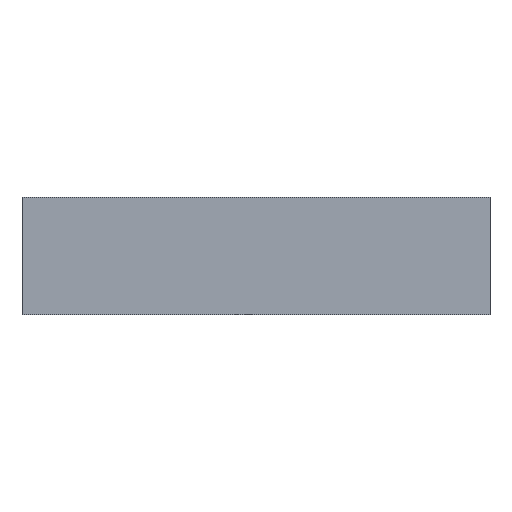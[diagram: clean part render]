
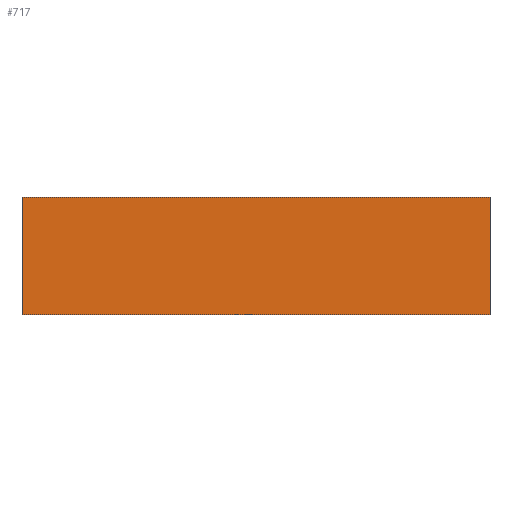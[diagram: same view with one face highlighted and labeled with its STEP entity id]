
A CAD part, left-side view. The second image highlights one B-rep face of the part: STEP entity #717.
In plain terms, the highlighted planar face has unit normal (-1, 0, 0).
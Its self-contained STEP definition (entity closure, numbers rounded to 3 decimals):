
#2 = VECTOR ( 'NONE', #512, 1000. ) ;
#18 = LINE ( 'NONE', #667, #2 ) ;
#27 = EDGE_CURVE ( 'NONE', #437, #775, #100, .T. ) ;
#71 = ORIENTED_EDGE ( 'NONE', *, *, #649, .F. ) ;
#76 = VERTEX_POINT ( 'NONE', #386 ) ;
#100 = LINE ( 'NONE', #209, #284 ) ;
#147 = VECTOR ( 'NONE', #306, 1000. ) ;
#149 = EDGE_LOOP ( 'NONE', ( #413, #71, #356, #503 ) ) ;
#196 = DIRECTION ( 'NONE',  ( 0., -1., 0. ) ) ;
#209 = CARTESIAN_POINT ( 'NONE',  ( -13., -180., 0. ) ) ;
#284 = VECTOR ( 'NONE', #196, 1000. ) ;
#306 = DIRECTION ( 'NONE',  ( 0., -1., 0. ) ) ;
#315 = PLANE ( 'NONE',  #450 ) ;
#356 = ORIENTED_EDGE ( 'NONE', *, *, #561, .F. ) ;
#376 = CARTESIAN_POINT ( 'NONE',  ( -13., 180., 0. ) ) ;
#386 = CARTESIAN_POINT ( 'NONE',  ( -13., 180., 90. ) ) ;
#413 = ORIENTED_EDGE ( 'NONE', *, *, #27, .T. ) ;
#427 = CARTESIAN_POINT ( 'NONE',  ( -13., -180., 90. ) ) ;
#437 = VERTEX_POINT ( 'NONE', #376 ) ;
#446 = DIRECTION ( 'NONE',  ( 1., 0., 0. ) ) ;
#449 = DIRECTION ( 'NONE',  ( 0., 0., -1. ) ) ;
#450 = AXIS2_PLACEMENT_3D ( 'NONE', #427, #446, #449 ) ;
#453 = FACE_OUTER_BOUND ( 'NONE', #149, .T. ) ;
#455 = VERTEX_POINT ( 'NONE', #594 ) ;
#463 = CARTESIAN_POINT ( 'NONE',  ( -13., -180., 90. ) ) ;
#474 = LINE ( 'NONE', #463, #147 ) ;
#503 = ORIENTED_EDGE ( 'NONE', *, *, #779, .T. ) ;
#512 = DIRECTION ( 'NONE',  ( 0., 0., -1. ) ) ;
#547 = VECTOR ( 'NONE', #746, 1000. ) ;
#561 = EDGE_CURVE ( 'NONE', #76, #455, #474, .T. ) ;
#585 = CARTESIAN_POINT ( 'NONE',  ( -13., -180., 0. ) ) ;
#594 = CARTESIAN_POINT ( 'NONE',  ( -13., -180., 90. ) ) ;
#597 = CARTESIAN_POINT ( 'NONE',  ( -13., 180., 90. ) ) ;
#649 = EDGE_CURVE ( 'NONE', #455, #775, #18, .T. ) ;
#667 = CARTESIAN_POINT ( 'NONE',  ( -13., -180., 90. ) ) ;
#715 = LINE ( 'NONE', #597, #547 ) ;
#717 = ADVANCED_FACE ( 'NONE', ( #453 ), #315, .F. ) ;
#746 = DIRECTION ( 'NONE',  ( 0., 0., -1. ) ) ;
#775 = VERTEX_POINT ( 'NONE', #585 ) ;
#779 = EDGE_CURVE ( 'NONE', #76, #437, #715, .T. ) ;
